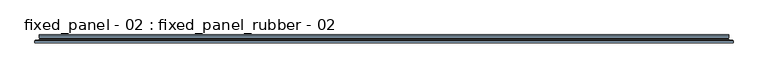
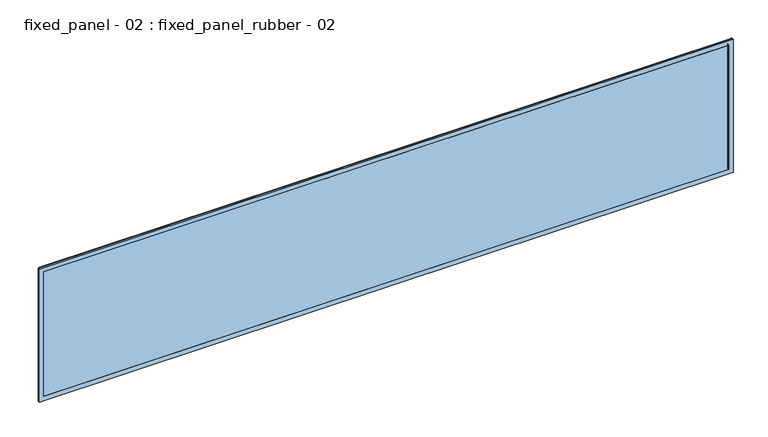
"""IFC4 building model written with IfcOpenShell, lengths in millimetres: window geometry, fixed_panel - 02 : fixed_panel_rubber - 02."""

import ifcopenshell
import ifcopenshell.guid

model = None  # the IFC model being written
_history = None  # IfcOwnerHistory: only IFC2X3 demands one
_inside = {}  # id of a spatial element -> (the spatial element, [elements in it])
_under = {}  # id of a project, library or spatial element -> (it, [spatial elements below it])
_declared = {}  # id of a project -> (the project, [libraries it declares])
_typed = {}  # id of a type object -> (the type object, [elements of that type])
_made_of = {}  # id of a material, layer set ... -> (it, [elements and type objects made of it])


def new_model(schema):
    """Start an empty IFC model of exactly this schema.

    Asked for "IFC4X3", IfcOpenShell would pick the latest addendum, in which some entities
    have other attributes; the version numbers below select the first issue.
    IFC2X3 requires an IfcOwnerHistory on every rooted entity: one is made here for all.
    """
    global model, _history
    if schema == "IFC4X3":
        model = ifcopenshell.file(schema_version=(4, 3, 0, 0))
    else:
        model = ifcopenshell.file(schema=schema)
    _inside.clear()
    _under.clear()
    _declared.clear()
    _typed.clear()
    _made_of.clear()
    _history = None
    if model.schema == "IFC2X3":
        org = make("IfcOrganization", Name="unknown")
        user = make(
            "IfcPersonAndOrganization",
            ThePerson=make("IfcPerson", FamilyName="unknown"),
            TheOrganization=org,
        )
        app = make(
            "IfcApplication",
            ApplicationDeveloper=org,
            Version="unknown",
            ApplicationFullName="unknown",
            ApplicationIdentifier="unknown",
        )
        _history = make(
            "IfcOwnerHistory",
            OwningUser=user,
            OwningApplication=app,
            ChangeAction="ADDED",
            CreationDate=0,
        )
    return model


def make(cls, **values):
    """One entity of the class cls with the attributes given. An attribute that is None is left unset."""
    return model.create_entity(
        cls, **{name: value for name, value in values.items() if value is not None}
    )


def rooted(cls, **values):
    """An entity with a GlobalId (a new one), such as an element, a storey or a relation."""
    return make(cls, GlobalId=ifcopenshell.guid.new(), OwnerHistory=_history, **values)


def si_unit(unit_type, name, prefix=None):
    """IfcSIUnit, for example si_unit("LENGTHUNIT", "METRE", prefix="MILLI")."""
    return make("IfcSIUnit", UnitType=unit_type, Prefix=prefix, Name=name)


def assignment(units):
    """IfcUnitAssignment: the units of a project."""
    return None if units is None else make("IfcUnitAssignment", Units=units)


def point(xyz):
    """IfcCartesianPoint."""
    return None if xyz is None else make("IfcCartesianPoint", Coordinates=xyz)


def direction(xyz):
    """IfcDirection."""
    return None if xyz is None else make("IfcDirection", DirectionRatios=xyz)


def frame(location, z_axis=None, x_axis=None):
    """IfcAxis2Placement3D, a coordinate frame: its origin and axes. An axis left out is left unset."""
    return make(
        "IfcAxis2Placement3D",
        Location=point(location),
        Axis=direction(z_axis),
        RefDirection=direction(x_axis),
    )


def origin():
    """The frame at (0, 0, 0) with its axes left unset."""
    return frame((0.0, 0.0, 0.0))


def place(relative_to, where):
    """IfcLocalPlacement: puts the frame where relative to a parent placement (None: the world)."""
    return make(
        "IfcLocalPlacement", PlacementRelTo=relative_to, RelativePlacement=where
    )


def context(
    kind, dimensions, precision=None, world=None, true_north=None, identifier=None
):
    """IfcGeometricRepresentationContext, for example the 3D "Model" context."""
    return make(
        "IfcGeometricRepresentationContext",
        ContextIdentifier=identifier,
        ContextType=kind,
        CoordinateSpaceDimension=dimensions,
        Precision=precision,
        WorldCoordinateSystem=world,
        TrueNorth=true_north,
    )


def project(units=None, contexts=None):
    """IfcProject with its units and contexts."""
    return rooted(
        "IfcProject",
        Name="project",
        RepresentationContexts=contexts,
        UnitsInContext=assignment(units),
    )


def spatial(cls, under=None, at=None, **own):
    """A site, building, storey or space (cls), placed at a placement, below another one or the project."""
    s = rooted(cls, ObjectPlacement=at, **own)
    if under is not None:
        _under.setdefault(under.id(), (under, []))[1].append(s)
    return s


def polyline(points):
    """IfcPolyline through the points."""
    return make("IfcPolyline", Points=[point(p) for p in points])


def ellipse_curve(where, semi_axis1, semi_axis2):
    """IfcEllipse in the frame where."""
    return make(
        "IfcEllipse", Position=where, SemiAxis1=semi_axis1, SemiAxis2=semi_axis2
    )


def outline(outer, holes=None, kind="AREA"):
    """IfcArbitraryClosedProfileDef: a profile drawn as a closed curve; with holes, ...WithVoids."""
    if holes is None:
        return make("IfcArbitraryClosedProfileDef", ProfileType=kind, OuterCurve=outer)
    return make(
        "IfcArbitraryProfileDefWithVoids",
        ProfileType=kind,
        OuterCurve=outer,
        InnerCurves=holes,
    )


def extrude(swept, where, along, depth):
    """IfcExtrudedAreaSolid: the profile swept, set in the frame where, extruded along a direction by depth."""
    return make(
        "IfcExtrudedAreaSolid",
        SweptArea=swept,
        Position=where,
        ExtrudedDirection=direction(along),
        Depth=depth,
    )


def faces_of(points, faces, orient=None, outer=None):
    """IfcFace entities. A face is a list of loops; a loop is a list of indices into points, from 0.

    orient and outer hold one flag for each loop. By default every Orientation is true, the
    first loop of a face is its IfcFaceOuterBound and the others are IfcFaceBound.
    """
    made = []
    for i, loops in enumerate(faces):
        bounds = []
        for j, loop in enumerate(loops):
            is_outer = j == 0 if outer is None else outer[i][j]
            bounds.append(
                make(
                    "IfcFaceOuterBound" if is_outer else "IfcFaceBound",
                    Bound=make("IfcPolyLoop", Polygon=[points[k] for k in loop]),
                    Orientation=True if orient is None else orient[i][j],
                )
            )
        made.append(make("IfcFace", Bounds=bounds))
    return made


def faceted_brep(points, faces, orient=None, outer=None, voids=None):
    """IfcFacetedBrep: a solid bounded by flat faces; with voids (closed shells), ...WithVoids."""
    shared = [point(p) for p in points]
    hull = make("IfcClosedShell", CfsFaces=faces_of(shared, faces, orient, outer))
    if voids is None:
        return make("IfcFacetedBrep", Outer=hull)
    return make(
        "IfcFacetedBrepWithVoids",
        Outer=hull,
        Voids=[
            make(cls, CfsFaces=faces_of(shared, fs, o, b)) for cls, fs, o, b in voids
        ],
    )


def shape(context_of_items, identifier, shape_type, items):
    """IfcShapeRepresentation: the items that make up one representation, for example the "Body"."""
    return make(
        "IfcShapeRepresentation",
        ContextOfItems=context_of_items,
        RepresentationIdentifier=identifier,
        RepresentationType=shape_type,
        Items=items,
    )


def source(mapping_origin, context_of_items, identifier, shape_type, items):
    """IfcRepresentationMap: a shape defined once, which mapped items show again and again."""
    return make(
        "IfcRepresentationMap",
        MappingOrigin=mapping_origin,
        MappedRepresentation=shape(context_of_items, identifier, shape_type, items),
    )


def transform(
    local_origin,
    x_axis=None,
    y_axis=None,
    z_axis=None,
    scale=None,
    scale2=None,
    scale3=None,
    uniform=True,
):
    """IfcCartesianTransformationOperator3D, or its non-uniform kind. x_axis, y_axis, z_axis: its Axis1, 2, 3."""
    if uniform:
        return make(
            "IfcCartesianTransformationOperator3D",
            Axis1=direction(x_axis),
            Axis2=direction(y_axis),
            LocalOrigin=point(local_origin),
            Scale=scale,
            Axis3=direction(z_axis),
        )
    return make(
        "IfcCartesianTransformationOperator3DnonUniform",
        Axis1=direction(x_axis),
        Axis2=direction(y_axis),
        LocalOrigin=point(local_origin),
        Scale=scale,
        Axis3=direction(z_axis),
        Scale2=scale2,
        Scale3=scale3,
    )


def mapped(mapping_source, mapping_target):
    """IfcMappedItem: shows the shape of a source again, moved by a transform."""
    return make(
        "IfcMappedItem", MappingSource=mapping_source, MappingTarget=mapping_target
    )


def made_of(thing, what):
    """Note that an element or type object is made of a material, layer set ...; save() writes the relation."""
    if what is not None:
        _made_of.setdefault(what.id(), (what, []))[1].append(thing)
    return thing


def element(
    cls,
    number,
    at=None,
    inside=None,
    cuts=None,
    type_object=None,
    material=None,
    context=None,
    identifier="Body",
    shape_type=None,
    held_by="IfcProductDefinitionShape",
    body=None,
    shapes=None,
    **own,
):
    """One element of the class cls, such as IfcWall. Its Tag is "e" and its number.

    at: its placement. inside: the storey or other place that contains it. cuts: it is an
    opening in that element (IfcRelVoidsElement). A single representation is given by context,
    identifier, shape_type and body (its items); several are given by shapes. held_by: the class
    of the entity that holds the representations. save() writes the other relations.
    """
    e = rooted(cls, Tag="e%d" % number, ObjectPlacement=at, **own)
    if body is not None:
        shapes = [shape(context, identifier, shape_type, body)]
    if shapes is not None:
        e.Representation = make(held_by, Representations=shapes)
    if inside is not None:
        _inside.setdefault(inside.id(), (inside, []))[1].append(e)
    if cuts is not None:
        rooted(
            "IfcRelVoidsElement", RelatingBuildingElement=cuts, RelatedOpeningElement=e
        )
    if type_object is not None:
        _typed.setdefault(type_object.id(), (type_object, []))[1].append(e)
    return made_of(e, material)


def aggregate(whole, parts):
    """IfcRelAggregates: a whole, such as a stair, and the parts it consists of."""
    return rooted("IfcRelAggregates", RelatingObject=whole, RelatedObjects=parts)


def save(model, path):
    """Write the relations noted so far, then the file.

    IfcRelAggregates (storeys below a building ...), IfcRelContainedInSpatialStructure (elements
    in a storey), IfcRelDefinesByType, IfcRelAssociatesMaterial and IfcRelDeclares: one each for
    every whole, place, type object, material and project.
    """
    for whole, parts in _under.values():
        aggregate(whole, parts)
    for where, things in _inside.values():
        rooted(
            "IfcRelContainedInSpatialStructure",
            RelatedElements=things,
            RelatingStructure=where,
        )
    for kind, things in _typed.values():
        rooted("IfcRelDefinesByType", RelatedObjects=things, RelatingType=kind)
    for what, things in _made_of.values():
        rooted("IfcRelAssociatesMaterial", RelatedObjects=things, RelatingMaterial=what)
    for by, libraries in _declared.values():
        rooted("IfcRelDeclares", RelatingContext=by, RelatedDefinitions=libraries)
    model.write(path)


def plane_surface(at):
    """IfcPlane: the flat surface through the origin of the frame at, square to its z axis."""
    return make("IfcPlane", Position=at)


def cylinder_surface(at, radius):
    """IfcCylindricalSurface: all points at the distance radius from the z axis of the frame at."""
    return make("IfcCylindricalSurface", Position=at, Radius=radius)


def advanced_brep(points, edges, surfaces, faces):
    """IfcAdvancedBrep: a solid bounded by faces that lie on surfaces and meet in shared edges.

    An edge is (start, end): straight between two places in points (the first is 0);
    or (start, end, curve); or (start, end, curve, False) where it runs against its curve.
    A face is (place in surfaces, loops), or (place, loops, False) where it looks against
    its surface's normal. A loop lists edges by number (the first is 1), with a minus sign
    where the edge is run from its end to its start. The first loop is the outer one.
    """
    corners = [point(p) for p in points]
    vertices = [make("IfcVertexPoint", VertexGeometry=c) for c in corners]
    made = []
    for start, end, *more in edges:
        made.append(
            make(
                "IfcEdgeCurve",
                EdgeStart=vertices[start],
                EdgeEnd=vertices[end],
                EdgeGeometry=more[0] if more else make("IfcPolyline", Points=[corners[start], corners[end]]),
                SameSense=more[1] if len(more) > 1 else True,
            )
        )
    hull = []
    for where, loops, *sense in faces:
        bounds = []
        for j, loop in enumerate(loops):
            ring = [make("IfcOrientedEdge", EdgeElement=made[abs(k) - 1], Orientation=k > 0) for k in loop]
            bounds.append(
                make(
                    "IfcFaceOuterBound" if j == 0 else "IfcFaceBound",
                    Bound=make("IfcEdgeLoop", EdgeList=ring),
                    Orientation=True,
                )
            )
        hull.append(make("IfcAdvancedFace", Bounds=bounds, FaceSurface=surfaces[where], SameSense=sense[0] if sense else True))
    return make("IfcAdvancedBrep", Outer=make("IfcClosedShell", CfsFaces=hull))


def fixed_panel_02_fixed_panel_rubber_02_22c873de(model_context):
    return source(origin(), model_context, "Body", "SolidModel", [
        advanced_brep(
        [(1510.0, -27.9878211, 560.0000266), (1515.0, -22.9878211, 565.0000266), (1515.0, -22.9878211, -25.0), (1510.0, -27.9878211, -20.0), (1524.9976779, -22.9878211, -34.9976779), (-1524.9976779, -22.9878211, -34.9976779), (-1524.9976779, -22.9878211, 574.9977046), (1524.9976779, -22.9878211, 574.9977046), (-1515.0, -22.9878211, 565.0000266), (-1515.0, -22.9878211, -25.0), (-1510.0, -27.9878211, -20.0), (1510.0, -34.0, 560.0000266), (1510.0, -34.0, -20.0), (-1510.0, -34.0, -20.0), (1529.9933535, -34.0, 579.9933801), (-1529.9933535, -34.0, 579.9933801), (-1529.9933535, -34.0, -39.9933535), (1529.9933535, -34.0, -39.9933535), (-1510.0, -34.0, 560.0000266), (1529.9933535, -27.9834967, 579.9933801), (1529.9933535, -27.9834967, -39.9933535), (-1529.9933535, -27.9834967, -39.9933535), (-1510.0, -27.9878211, 560.0000266), (-1529.9933535, -27.9834967, 579.9933801)],
        [
            (0, 1, ellipse_curve(frame((1515.0, -27.9878211, 565.0000266), z_axis=(0.7071067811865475, 0.0, -0.7071067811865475), x_axis=(0.7071067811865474, 0.0, 0.7071067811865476)), 7.0710678, 5.0)),
            (1, 2),
            (2, 3, ellipse_curve(frame((1515.0, -27.9878211, -25.0), z_axis=(0.7071067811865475, 0.0, 0.7071067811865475), x_axis=(-0.7071067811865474, 0.0, 0.7071067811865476)), 7.0710678, 5.0)),
            (3, 0),
            (4, 5),
            (5, 6),
            (6, 7),
            (7, 4),
            (1, 8),
            (8, 9),
            (9, 2),
            (9, 10, ellipse_curve(frame((-1515.0, -27.9878211, -25.0), z_axis=(0.7071067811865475, 0.0, -0.7071067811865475), x_axis=(0.7071067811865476, 0.0, 0.7071067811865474)), 7.0710678, 5.0)),
            (10, 3),
            (11, 0),
            (3, 12),
            (12, 11),
            (10, 13),
            (13, 12),
            (14, 15),
            (15, 16),
            (16, 17),
            (17, 14),
            (13, 18),
            (18, 11),
            (19, 14),
            (17, 20),
            (20, 19),
            (16, 21),
            (21, 20),
            (7, 19, ellipse_curve(frame((1524.9976779, -27.9834967, 574.9977046), z_axis=(0.7071067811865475, 0.0, -0.7071067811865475), x_axis=(0.7071067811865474, 0.0, 0.7071067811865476)), 7.0649521, 4.9956756)),
            (20, 4, ellipse_curve(frame((1524.9976779, -27.9834967, -34.9976779), z_axis=(0.7071067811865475, 0.0, 0.7071067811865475), x_axis=(-0.7071067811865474, 0.0, 0.7071067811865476)), 7.0649521, 4.9956756)),
            (21, 5, ellipse_curve(frame((-1524.9976779, -27.9834967, -34.9976779), z_axis=(0.7071067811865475, 0.0, -0.7071067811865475), x_axis=(0.7071067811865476, 0.0, 0.7071067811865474)), 7.0649521, 4.9956756)),
            (8, 22, ellipse_curve(frame((-1515.0, -27.9878211, 565.0000266), z_axis=(-0.7071067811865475, 0.0, -0.7071067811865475), x_axis=(0.7071067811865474, 0.0, -0.7071067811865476)), 7.0710678, 5.0)),
            (22, 10),
            (22, 18),
            (15, 23),
            (23, 21),
            (23, 6, ellipse_curve(frame((-1524.9976779, -27.9834967, 574.9977046), z_axis=(-0.7071067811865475, 0.0, -0.7071067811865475), x_axis=(0.7071067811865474, 0.0, -0.7071067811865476)), 7.0649521, 4.9956756)),
            (0, 22),
            (19, 23),
        ],
        [
            cylinder_surface(frame((1515.0, -27.9878211, 560.0000266), z_axis=(0.0, 0.0, 1.0), x_axis=(1.0, 0.0, 0.0)), 5.0),
            plane_surface(frame((-1524.9976779, -22.9878211, 574.9977046), z_axis=(0.0, 1.0, 0.0), x_axis=(1.0, 0.0, 0.0))),
            cylinder_surface(frame((1510.0, -27.9878211, -25.0), z_axis=(1.0, 0.0, 0.0), x_axis=(0.0, 0.0, -1.0)), 5.0),
            plane_surface(frame((1510.0, -27.9878211, 560.0000266), z_axis=(-1.0, 0.0, 0.0), x_axis=(0.0, 0.0, -1.0))),
            plane_surface(frame((1510.0, -27.9878211, -20.0), z_axis=(0.0, 0.0, 1.0), x_axis=(-1.0, 0.0, 0.0))),
            plane_surface(frame((-1510.0, -34.0, 560.0000266), z_axis=(0.0, -1.0, 0.0), x_axis=(1.0, 0.0, 0.0))),
            plane_surface(frame((1529.9933535, -34.0, 579.9933801), z_axis=(1.0, 0.0, 0.0), x_axis=(0.0, 0.0, -1.0))),
            plane_surface(frame((1529.9933535, -34.0, -39.9933535), z_axis=(0.0, 0.0, -1.0), x_axis=(-1.0, 0.0, 0.0))),
            cylinder_surface(frame((1524.9976779, -27.9834967, 560.0000266), z_axis=(0.0, 0.0, 1.0), x_axis=(1.0, 0.0, 0.0)), 4.9956756),
            cylinder_surface(frame((1510.0, -27.9834967, -34.9976779), z_axis=(1.0, 0.0, 0.0), x_axis=(0.0, 0.0, -1.0)), 4.9956756),
            cylinder_surface(frame((-1515.0, -27.9878211, -20.0), z_axis=(0.0, 0.0, -1.0), x_axis=(-1.0, 0.0, 0.0)), 5.0),
            plane_surface(frame((-1510.0, -27.9878211, -20.0), z_axis=(1.0, 0.0, 0.0), x_axis=(0.0, 0.0, 1.0))),
            plane_surface(frame((-1529.9933535, -34.0, -39.9933535), z_axis=(-1.0, 0.0, 0.0), x_axis=(0.0, 0.0, 1.0))),
            cylinder_surface(frame((-1524.9976779, -27.9834967, -20.0), z_axis=(0.0, 0.0, -1.0), x_axis=(-1.0, 0.0, 0.0)), 4.9956756),
            cylinder_surface(frame((-1510.0, -27.9878211, 565.0000266), z_axis=(-1.0, 0.0, 0.0), x_axis=(0.0, 0.0, 1.0)), 5.0),
            plane_surface(frame((-1510.0, -27.9878211, 560.0000266), z_axis=(0.0, 0.0, -1.0), x_axis=(1.0, 0.0, 0.0))),
            plane_surface(frame((-1529.9933535, -34.0, 579.9933801), z_axis=(0.0, 0.0, 1.0), x_axis=(1.0, 0.0, 0.0))),
            cylinder_surface(frame((-1510.0, -27.9834967, 574.9977046), z_axis=(-1.0, 0.0, 0.0), x_axis=(0.0, 0.0, 1.0)), 4.9956756),
        ],
        [
            (0, [[1, 2, 3, 4]]),
            (1, [[5, 6, 7, 8], [9, 10, 11, -2]]),
            (2, [[-3, -11, 12, 13]]),
            (3, [[14, -4, 15, 16]]),
            (4, [[-15, -13, 17, 18]]),
            (5, [[19, 20, 21, 22], [-18, 23, 24, -16]]),
            (6, [[25, -22, 26, 27]]),
            (7, [[-26, -21, 28, 29]]),
            (8, [[30, -27, 31, -8]]),
            (9, [[-31, -29, 32, -5]]),
            (10, [[-12, -10, 33, 34]]),
            (11, [[-17, -34, 35, -23]]),
            (12, [[-28, -20, 36, 37]]),
            (13, [[-32, -37, 38, -6]]),
            (14, [[-33, -9, -1, 39]]),
            (15, [[-35, -39, -14, -24]]),
            (16, [[-36, -19, -25, 40]]),
            (17, [[-38, -40, -30, -7]]),
        ],
    ),
        faceted_brep([(1484.0, -26.0, 534.0000266), (1484.0, -6.0, 534.0000266), (1484.0, -6.0, 6.0), (1484.0, -26.0, 6.0), (1510.0, -6.0, -20.0), (-1510.0, -6.0, -20.0), (-1510.0, -6.0, 560.0000266), (1510.0, -6.0, 560.0000266), (-1484.0, -6.0, 534.0000266), (-1484.0, -6.0, 6.0), (-1484.0, -26.0, 6.0), (1510.0, -26.0, 560.0000266), (-1510.0, -26.0, 560.0000266), (-1510.0, -26.0, -20.0), (1510.0, -26.0, -20.0), (-1484.0, -26.0, 534.0000266), (1510.0, -18.8, 560.0000266), (1510.0, -18.8, -20.0), (-1510.0, -18.8, -20.0), (-1510.0, -18.8, 560.0000266), (1499.0, -18.8, 549.0000266), (-1499.0, -18.8, 549.0000266), (-1499.0, -18.8, -9.0), (1499.0, -18.8, -9.0), (1499.0, -13.2, 549.0000266), (1499.0, -13.2, -9.0), (-1499.0, -13.2, -9.0), (1510.0, -13.2, 560.0000266), (-1510.0, -13.2, 560.0000266), (-1510.0, -13.2, -20.0), (1510.0, -13.2, -20.0), (-1499.0, -13.2, 549.0000266)], [[[0, 1, 2, 3]], [[4, 5, 6, 7], [1, 8, 9, 2]], [[3, 2, 9, 10]], [[11, 12, 13, 14], [3, 10, 15, 0]], [[16, 11, 14, 17]], [[17, 14, 13, 18]], [[17, 18, 19, 16], [20, 21, 22, 23]], [[24, 20, 23, 25]], [[25, 23, 22, 26]], [[27, 28, 29, 30], [25, 26, 31, 24]], [[7, 27, 30, 4]], [[4, 30, 29, 5]], [[10, 9, 8, 15]], [[18, 13, 12, 19]], [[26, 22, 21, 31]], [[5, 29, 28, 6]], [[15, 8, 1, 0]], [[19, 12, 11, 16]], [[31, 21, 20, 24]], [[6, 28, 27, 7]]]),
        extrude(outline(polyline([(1510.0, -34.0), (-1510.0, -34.0), (-1510.0, -26.0), (1510.0, -26.0), (1510.0, -34.0)])), frame((0.0, 0.0, -20.0), z_axis=(0.0, 0.0, 1.0), x_axis=(1.0, 0.0, 0.0)), (0.0, 0.0, 1.0), 580.0000266),
        extrude(outline(polyline([(1510.0, -6.0), (-1510.0, -6.0), (-1510.0, 0.0), (1510.0, 0.0), (1510.0, -6.0)])), frame((0.0, 0.0, -20.0), z_axis=(0.0, 0.0, 1.0), x_axis=(1.0, 0.0, 0.0)), (0.0, 0.0, 1.0), 580.0000266),
    ])


if __name__ == "__main__":
    model = new_model("IFC4")
    model_context = context("Model", 3, world=origin())
    ifc_project = project(units=[si_unit("LENGTHUNIT", "METRE", prefix="MILLI")], contexts=[model_context])
    site = spatial("IfcSite", under=ifc_project)
    building = spatial("IfcBuilding", under=site)
    placement = place(None, origin())
    fixed_panel_02_fixed_panel_rubber_02_shape = fixed_panel_02_fixed_panel_rubber_02_22c873de(model_context)
    element("IfcWindow", 1, ObjectType="fixed_panel - 02 : fixed_panel_rubber - 02", at=placement, inside=building, context=model_context, shape_type="MappedRepresentation", body=[
        mapped(fixed_panel_02_fixed_panel_rubber_02_shape, transform((0.0, 0.0, 0.0), x_axis=(1.0, 0.0, 0.0), y_axis=(0.0, 1.0, 0.0), z_axis=(0.0, 0.0, 1.0))),
    ])
    save(model, "model.ifc")
